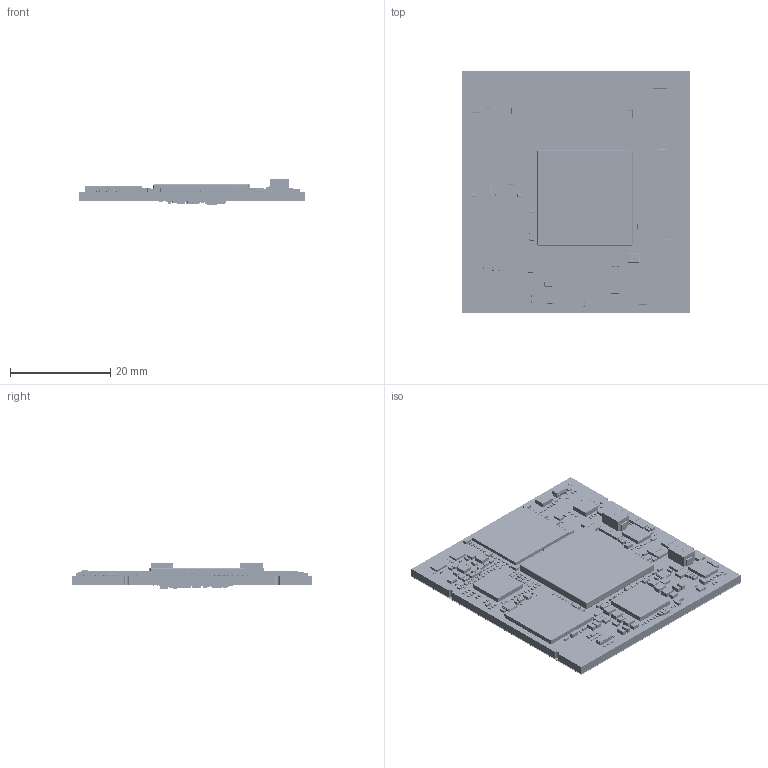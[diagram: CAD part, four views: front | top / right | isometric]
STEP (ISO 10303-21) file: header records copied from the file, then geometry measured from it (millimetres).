
FILE_DESCRIPTION(('STEP AP214'),'1');
FILE_NAME('Board1_BoardAndModels.step','2024-12-04T15:54:28',(' '),(' '),'Spatial InterOp 3D','XD3DPlugin XRACreate',' ');
FILE_SCHEMA(('automotive_design'));
Length unit declared in the file: millimetre
Products named in the file (217): Submodel-N:\GROUP\DEVELOP\HARDWARE\PCL-079_phyCORE-iMX95__lpar_FPSC_rpar_\Design\1620.2\001\PCL-079\PCB\Layout\3D\Input_S\RC0603F1005CS.xtd; RC0603F1005CS; Submodel-RES5673_part_simplified_0201; DesignRootModel; Submodel-N:\GROUP\DEVELOP\HARDWARE\PCL-079_phyCORE-iMX95__lpar_FPSC_rpar_\Design\1620.2\001\PCL-079\PCB\Layout\3D\Input_S\TLV75801PDRVR.xtd; TLV75801PDRVR; Submodel-DCDC952_part_simplified_WSON6-65; Submodel-RES5953_part_simplified_0201; Submodel-N:\GROUP\DEVELOP\HARDWARE\PCL-079_phyCORE-iMX95__lpar_FPSC_rpar_\Design\1620.2\001\PCL-079\PCB\Layout\3D\Input_S\0201YC101KAZ2A.xtd; 0201YC101KAZ2A; Submodel-CAP3873_part_simplified_0201; Submodel-CAP3843_part_simplified_0201; Submodel-N:\GROUP\DEVELOP\HARDWARE\PCL-079_phyCORE-iMX95__lpar_FPSC_rpar_\Design\1620.2\001\PCL-079\PCB\Layout\3D\Input_S\TRANSISTOR932.xtd; TRANSISTOR932; Submodel-TRANSISTOR932_part_simplified_DFN-0806-3; Submodel-RES5803_part_simplified_0201; Submodel-RES5693_part_simplified_0201; Submodel-N:\GROUP\DEVELOP\HARDWARE\PCL-079_phyCORE-iMX95__lpar_FPSC_rpar_\Design\1620.2\001\PCL-079\PCB\Layout\3D\Input_S\FLASH273.xtd; FLASH273; Submodel-FLASH273_part_simplified_BGA153-50-AC3; Submodel-N:\GROUP\DEVELOP\HARDWARE\PCL-079_phyCORE-iMX95__lpar_FPSC_rpar_\Design\1620.2\001\PCL-079\PCB\Layout\3D\Input_S\LQM2MPNR47NG0.xtd; LQM2MPNR47NG0; Submodel-IND2133_part_simplified_2016-DFE2016; Submodel-N:\GROUP\DEVELOP\HARDWARE\PCL-079_phyCORE-iMX95__lpar_FPSC_rpar_\Design\1620.2\001\PCL-079\PCB\Layout\3D\Input_S\RCC-0402-1000F.xtd; RCC-0402-1000F; Submodel-RES6113_part_simplified_0402; Submodel-RES5773_part_simplified_0201; Submodel-N:\GROUP\DEVELOP\HARDWARE\PCL-079_phyCORE-iMX95__lpar_FPSC_rpar_\Design\1620.2\001\PCL-079\PCB\Layout\3D\Input_S\xd_sod523_1.xtd; xd_sod523_1; Submodel-DIODE1213_part_simplified_SOD523-C3; Submodel-N:\GROUP\DEVELOP\HARDWARE\PCL-079_phyCORE-iMX95__lpar_FPSC_rpar_\Design\1620.2\001\PCL-079\PCB\Layout\3D\Input_S\CRCW020110R7JNEF.xtd; CRCW020110R7JNEF; Submodel-RES5653_part_simplified_0201; Submodel-N:\GROUP\DEVELOP\HARDWARE\PCL-079_phyCORE-iMX95__lpar_FPSC_rpar_\Design\1620.2\001\PCL-079\PCB\Layout\3D\Input_S\GRM155R71C224KA12D.xtd; GRM155R71C224KA12D; Submodel-CAP1363_part_simplified_0402-C3; Submodel-N:\GROUP\DEVELOP\HARDWARE\PCL-079_phyCORE-iMX95__lpar_FPSC_rpar_\Design\1620.2\001\PCL-079\PCB\Layout\3D\Input_S\C0402C270F5GAC_0.xtd; C0402C270F5GAC_0; Submodel-CAP3193_part_simplified_0402-C3; Submodel-N:\GROUP\DEVELOP\HARDWARE\PCL-079_phyCORE-iMX95__lpar_FPSC_rpar_\Design\1620.2\001\PCL-079\PCB\Layout\3D\Input_S\GRM188Z71A106KA73D.xtd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
Assembly tree (665 placements, depth 6):
  Board1_BoardAndModels
    DesignRootModel
      Submodel-RES5673_part_simplified_0201  x24
        Submodel-N:\GROUP\DEVELOP\HARDWARE\PCL-079_phyCORE-iMX95__lpar_FPSC_rpar_\Design\1620.2\001\PCL-079\PCB\Layout\3D\Input_S\RC0603F1005CS.xtd
          RC0603F1005CS
      Submodel-DCDC952_part_simplified_WSON6-65  x2
        Submodel-N:\GROUP\DEVELOP\HARDWARE\PCL-079_phyCORE-iMX95__lpar_FPSC_rpar_\Design\1620.2\001\PCL-079\PCB\Layout\3D\Input_S\TLV75801PDRVR.xtd
          TLV75801PDRVR
      Submodel-RES5953_part_simplified_0201  x5
        Submodel-N:\GROUP\DEVELOP\HARDWARE\PCL-079_phyCORE-iMX95__lpar_FPSC_rpar_\Design\1620.2\001\PCL-079\PCB\Layout\3D\Input_S\RC0603F1005CS.xtd
          RC0603F1005CS
      Submodel-CAP3873_part_simplified_0201  x31
        Submodel-N:\GROUP\DEVELOP\HARDWARE\PCL-079_phyCORE-iMX95__lpar_FPSC_rpar_\Design\1620.2\001\PCL-079\PCB\Layout\3D\Input_S\0201YC101KAZ2A.xtd
          0201YC101KAZ2A
      Submodel-CAP3843_part_simplified_0201  x150
        Submodel-N:\GROUP\DEVELOP\HARDWARE\PCL-079_phyCORE-iMX95__lpar_FPSC_rpar_\Design\1620.2\001\PCL-079\PCB\Layout\3D\Input_S\0201YC101KAZ2A.xtd
          0201YC101KAZ2A
      Submodel-TRANSISTOR932_part_simplified_DFN-0806-3  x6
        Submodel-N:\GROUP\DEVELOP\HARDWARE\PCL-079_phyCORE-iMX95__lpar_FPSC_rpar_\Design\1620.2\001\PCL-079\PCB\Layout\3D\Input_S\TRANSISTOR932.xtd
          TRANSISTOR932
      Submodel-RES5803_part_simplified_0201  x18
        Submodel-N:\GROUP\DEVELOP\HARDWARE\PCL-079_phyCORE-iMX95__lpar_FPSC_rpar_\Design\1620.2\001\PCL-079\PCB\Layout\3D\Input_S\RC0603F1005CS.xtd
          RC0603F1005CS
      Submodel-RES5693_part_simplified_0201  x15
        Submodel-N:\GROUP\DEVELOP\HARDWARE\PCL-079_phyCORE-iMX95__lpar_FPSC_rpar_\Design\1620.2\001\PCL-079\PCB\Layout\3D\Input_S\RC0603F1005CS.xtd
          RC0603F1005CS
      Submodel-FLASH273_part_simplified_BGA153-50-AC3
        Submodel-N:\GROUP\DEVELOP\HARDWARE\PCL-079_phyCORE-iMX95__lpar_FPSC_rpar_\Design\1620.2\001\PCL-079\PCB\Layout\3D\Input_S\FLASH273.xtd
          FLASH273
      Submodel-IND2133_part_simplified_2016-DFE2016  x5
        Submodel-N:\GROUP\DEVELOP\HARDWARE\PCL-079_phyCORE-iMX95__lpar_FPSC_rpar_\Design\1620.2\001\PCL-079\PCB\Layout\3D\Input_S\LQM2MPNR47NG0.xtd
          LQM2MPNR47NG0
      Submodel-RES6113_part_simplified_0402
        Submodel-N:\GROUP\DEVELOP\HARDWARE\PCL-079_phyCORE-iMX95__lpar_FPSC_rpar_\Design\1620.2\001\PCL-079\PCB\Layout\3D\Input_S\RCC-0402-1000F.xtd
          RCC-0402-1000F
      Submodel-RES5773_part_simplified_0201  x13
        Submodel-N:\GROUP\DEVELOP\HARDWARE\PCL-079_phyCORE-iMX95__lpar_FPSC_rpar_\Design\1620.2\001\PCL-079\PCB\Layout\3D\Input_S\RC0603F1005CS.xtd
          RC0603F1005CS
      Submodel-DIODE1213_part_simplified_SOD523-C3  x2
        Submodel-N:\GROUP\DEVELOP\HARDWARE\PCL-079_phyCORE-iMX95__lpar_FPSC_rpar_\Design\1620.2\001\PCL-079\PCB\Layout\3D\Input_S\xd_sod523_1.xtd
          xd_sod523_1
      Submodel-RES5653_part_simplified_0201  x24
        Submodel-N:\GROUP\DEVELOP\HARDWARE\PCL-079_phyCORE-iMX95__lpar_FPSC_rpar_\Design\1620.2\001\PCL-079\PCB\Layout\3D\Input_S\CRCW020110R7JNEF.xtd
          CRCW020110R7JNEF
      Submodel-CAP1363_part_simplified_0402-C3  x4
        Submodel-N:\GROUP\DEVELOP\HARDWARE\PCL-079_phyCORE-iMX95__lpar_FPSC_rpar_\Design\1620.2\001\PCL-079\PCB\Layout\3D\Input_S\GRM155R71C224KA12D.xtd
          GRM155R71C224KA12D
      Submodel-CAP3193_part_simplified_0402-C3  x9
        Submodel-N:\GROUP\DEVELOP\HARDWARE\PCL-079_phyCORE-iMX95__lpar_FPSC_rpar_\Design\1620.2\001\PCL-079\PCB\Layout\3D\Input_S\C0402C270F5GAC_0.xtd
          C0402C270F5GAC_0
      Submodel-CAP3343_part_simplified_0603-C3  x5
        Submodel-N:\GROUP\DEVELOP\HARDWARE\PCL-079_phyCORE-iMX95__lpar_FPSC_rpar_\Design\1620.2\001\PCL-079\PCB\Layout\3D\Input_S\GRM188Z71A106KA73D.xtd
          GRM188Z71A106KA73D
      Submodel-CAP3653_part_simplified_0402-C3
        Submodel-N:\GROUP\DEVELOP\HARDWARE\PCL-079_phyCORE-iMX95__lpar_FPSC_rpar_\Design\1620.2\001\PCL-079\PCB\Layout\3D\Input_S\C0402C270F5GAC_0.xtd
          C0402C270F5GAC_0
      Submodel-RES5713_part_simplified_0201  x18
        Submodel-N:\GROUP\DEVELOP\HARDWARE\PCL-079_phyCORE-iMX95__lpar_FPSC_rpar_\Design\1620.2\001\PCL-079\PCB\Layout\3D\Input_S\RC0603F1005CS.xtd
          RC0603F1005CS
      Submodel-RES6123_part_simplified_0201  x4
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Bounding box: 45.4 x 48.4 x 5.1 mm (x, y, z)
Volume: 4999.2 mm3; surface area: 12981.8 mm2
Topology: 818 solids, 818 shells, 9121 faces, 20821 edges, 13138 vertices
Faces by surface type: plane 6151, cylinder 1636, torus 678, sphere 616, bspline 40
Full cylindrical faces by diameter (mm): 0.25 x2
Entity records: 154724 total; most frequent: DIRECTION 21567, CARTESIAN_POINT 19426, ORIENTED_EDGE 16878, EDGE_CURVE 8439, AXIS2_PLACEMENT_3D 8425, VERTEX_POINT 5408, PRESENTATION_STYLE_ASSIGNMENT 5109, COLOUR_RGB 5109
